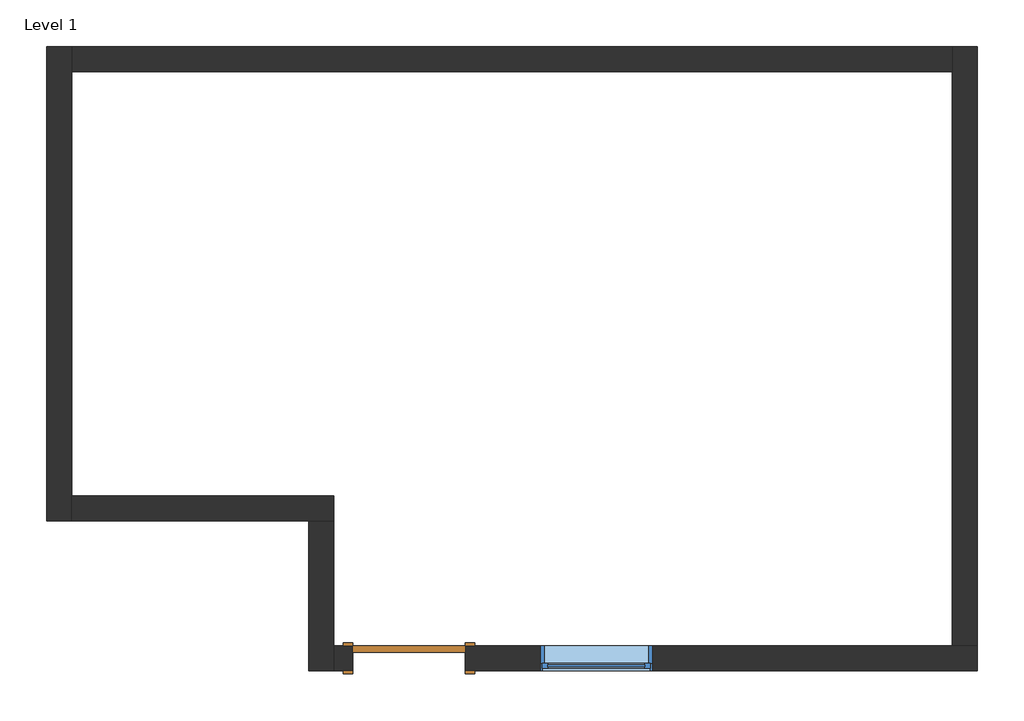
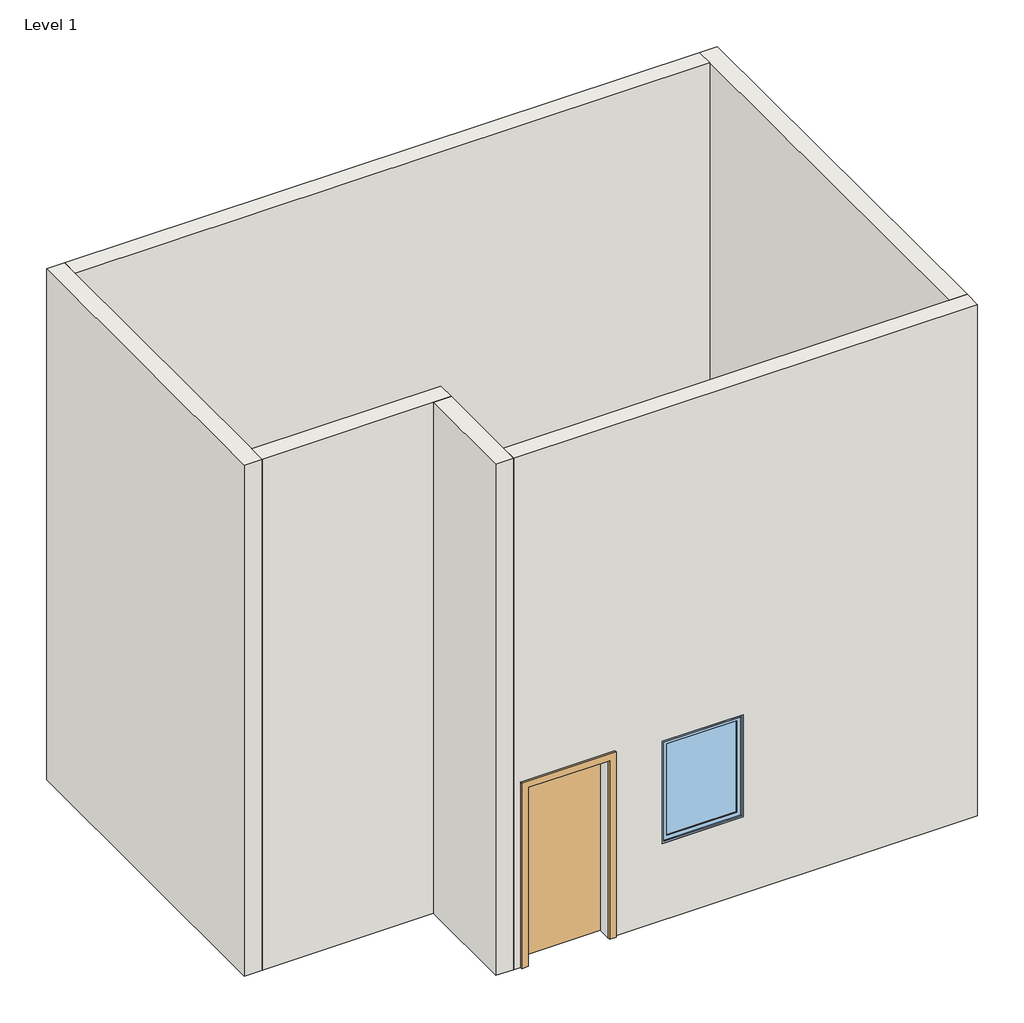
# One storey: 6 walls, 1 door, 1 window.
"""IFC4 building model written with IfcOpenShell, lengths in millimetres."""

import ifcopenshell
import ifcopenshell.guid

model = None  # the IFC model being written
_history = None  # IfcOwnerHistory: only IFC2X3 demands one
_inside = {}  # id of a spatial element -> (the spatial element, [elements in it])
_under = {}  # id of a project, library or spatial element -> (it, [spatial elements below it])
_declared = {}  # id of a project -> (the project, [libraries it declares])
_typed = {}  # id of a type object -> (the type object, [elements of that type])
_made_of = {}  # id of a material, layer set ... -> (it, [elements and type objects made of it])


def new_model(schema):
    """Start an empty IFC model of exactly this schema.

    Asked for "IFC4X3", IfcOpenShell would pick the latest addendum, in which some entities
    have other attributes; the version numbers below select the first issue.
    IFC2X3 requires an IfcOwnerHistory on every rooted entity: one is made here for all.
    """
    global model, _history
    if schema == "IFC4X3":
        model = ifcopenshell.file(schema_version=(4, 3, 0, 0))
    else:
        model = ifcopenshell.file(schema=schema)
    _inside.clear()
    _under.clear()
    _declared.clear()
    _typed.clear()
    _made_of.clear()
    _history = None
    if model.schema == "IFC2X3":
        org = make("IfcOrganization", Name="unknown")
        user = make(
            "IfcPersonAndOrganization",
            ThePerson=make("IfcPerson", FamilyName="unknown"),
            TheOrganization=org,
        )
        app = make(
            "IfcApplication",
            ApplicationDeveloper=org,
            Version="unknown",
            ApplicationFullName="unknown",
            ApplicationIdentifier="unknown",
        )
        _history = make(
            "IfcOwnerHistory",
            OwningUser=user,
            OwningApplication=app,
            ChangeAction="ADDED",
            CreationDate=0,
        )
    return model


def make(cls, **values):
    """One entity of the class cls with the attributes given. An attribute that is None is left unset."""
    return model.create_entity(
        cls, **{name: value for name, value in values.items() if value is not None}
    )


def rooted(cls, **values):
    """An entity with a GlobalId (a new one), such as an element, a storey or a relation."""
    return make(cls, GlobalId=ifcopenshell.guid.new(), OwnerHistory=_history, **values)


def si_unit(unit_type, name, prefix=None):
    """IfcSIUnit, for example si_unit("LENGTHUNIT", "METRE", prefix="MILLI")."""
    return make("IfcSIUnit", UnitType=unit_type, Prefix=prefix, Name=name)


def assignment(units):
    """IfcUnitAssignment: the units of a project."""
    return None if units is None else make("IfcUnitAssignment", Units=units)


def point(xyz):
    """IfcCartesianPoint."""
    return None if xyz is None else make("IfcCartesianPoint", Coordinates=xyz)


def direction(xyz):
    """IfcDirection."""
    return None if xyz is None else make("IfcDirection", DirectionRatios=xyz)


def frame(location, z_axis=None, x_axis=None):
    """IfcAxis2Placement3D, a coordinate frame: its origin and axes. An axis left out is left unset."""
    return make(
        "IfcAxis2Placement3D",
        Location=point(location),
        Axis=direction(z_axis),
        RefDirection=direction(x_axis),
    )


def origin():
    """The frame at (0, 0, 0) with its axes left unset."""
    return frame((0.0, 0.0, 0.0))


def origin_with_axes():
    """The frame at (0, 0, 0) with the z axis (0, 0, 1) and the x axis (1, 0, 0) written out."""
    return frame((0.0, 0.0, 0.0), z_axis=(0.0, 0.0, 1.0), x_axis=(1.0, 0.0, 0.0))


def place(relative_to, where):
    """IfcLocalPlacement: puts the frame where relative to a parent placement (None: the world)."""
    return make(
        "IfcLocalPlacement", PlacementRelTo=relative_to, RelativePlacement=where
    )


def context(
    kind, dimensions, precision=None, world=None, true_north=None, identifier=None
):
    """IfcGeometricRepresentationContext, for example the 3D "Model" context."""
    return make(
        "IfcGeometricRepresentationContext",
        ContextIdentifier=identifier,
        ContextType=kind,
        CoordinateSpaceDimension=dimensions,
        Precision=precision,
        WorldCoordinateSystem=world,
        TrueNorth=true_north,
    )


def project(units=None, contexts=None):
    """IfcProject with its units and contexts."""
    return rooted(
        "IfcProject",
        Name="project",
        RepresentationContexts=contexts,
        UnitsInContext=assignment(units),
    )


def spatial(cls, under=None, at=None, **own):
    """A site, building, storey or space (cls), placed at a placement, below another one or the project."""
    s = rooted(cls, ObjectPlacement=at, **own)
    if under is not None:
        _under.setdefault(under.id(), (under, []))[1].append(s)
    return s


def polyline(points):
    """IfcPolyline through the points."""
    return make("IfcPolyline", Points=[point(p) for p in points])


def outline(outer, holes=None, kind="AREA"):
    """IfcArbitraryClosedProfileDef: a profile drawn as a closed curve; with holes, ...WithVoids."""
    if holes is None:
        return make("IfcArbitraryClosedProfileDef", ProfileType=kind, OuterCurve=outer)
    return make(
        "IfcArbitraryProfileDefWithVoids",
        ProfileType=kind,
        OuterCurve=outer,
        InnerCurves=holes,
    )


def extrude(swept, where, along, depth):
    """IfcExtrudedAreaSolid: the profile swept, set in the frame where, extruded along a direction by depth."""
    return make(
        "IfcExtrudedAreaSolid",
        SweptArea=swept,
        Position=where,
        ExtrudedDirection=direction(along),
        Depth=depth,
    )


def faces_of(points, faces, orient=None, outer=None):
    """IfcFace entities. A face is a list of loops; a loop is a list of indices into points, from 0.

    orient and outer hold one flag for each loop. By default every Orientation is true, the
    first loop of a face is its IfcFaceOuterBound and the others are IfcFaceBound.
    """
    made = []
    for i, loops in enumerate(faces):
        bounds = []
        for j, loop in enumerate(loops):
            is_outer = j == 0 if outer is None else outer[i][j]
            bounds.append(
                make(
                    "IfcFaceOuterBound" if is_outer else "IfcFaceBound",
                    Bound=make("IfcPolyLoop", Polygon=[points[k] for k in loop]),
                    Orientation=True if orient is None else orient[i][j],
                )
            )
        made.append(make("IfcFace", Bounds=bounds))
    return made


def faceted_brep(points, faces, orient=None, outer=None, voids=None):
    """IfcFacetedBrep: a solid bounded by flat faces; with voids (closed shells), ...WithVoids."""
    shared = [point(p) for p in points]
    hull = make("IfcClosedShell", CfsFaces=faces_of(shared, faces, orient, outer))
    if voids is None:
        return make("IfcFacetedBrep", Outer=hull)
    return make(
        "IfcFacetedBrepWithVoids",
        Outer=hull,
        Voids=[
            make(cls, CfsFaces=faces_of(shared, fs, o, b)) for cls, fs, o, b in voids
        ],
    )


def shape(context_of_items, identifier, shape_type, items):
    """IfcShapeRepresentation: the items that make up one representation, for example the "Body"."""
    return make(
        "IfcShapeRepresentation",
        ContextOfItems=context_of_items,
        RepresentationIdentifier=identifier,
        RepresentationType=shape_type,
        Items=items,
    )


def source(mapping_origin, context_of_items, identifier, shape_type, items):
    """IfcRepresentationMap: a shape defined once, which mapped items show again and again."""
    return make(
        "IfcRepresentationMap",
        MappingOrigin=mapping_origin,
        MappedRepresentation=shape(context_of_items, identifier, shape_type, items),
    )


def transform(
    local_origin,
    x_axis=None,
    y_axis=None,
    z_axis=None,
    scale=None,
    scale2=None,
    scale3=None,
    uniform=True,
):
    """IfcCartesianTransformationOperator3D, or its non-uniform kind. x_axis, y_axis, z_axis: its Axis1, 2, 3."""
    if uniform:
        return make(
            "IfcCartesianTransformationOperator3D",
            Axis1=direction(x_axis),
            Axis2=direction(y_axis),
            LocalOrigin=point(local_origin),
            Scale=scale,
            Axis3=direction(z_axis),
        )
    return make(
        "IfcCartesianTransformationOperator3DnonUniform",
        Axis1=direction(x_axis),
        Axis2=direction(y_axis),
        LocalOrigin=point(local_origin),
        Scale=scale,
        Axis3=direction(z_axis),
        Scale2=scale2,
        Scale3=scale3,
    )


def mapped(mapping_source, mapping_target):
    """IfcMappedItem: shows the shape of a source again, moved by a transform."""
    return make(
        "IfcMappedItem", MappingSource=mapping_source, MappingTarget=mapping_target
    )


def made_of(thing, what):
    """Note that an element or type object is made of a material, layer set ...; save() writes the relation."""
    if what is not None:
        _made_of.setdefault(what.id(), (what, []))[1].append(thing)
    return thing


def element(
    cls,
    number,
    at=None,
    inside=None,
    cuts=None,
    type_object=None,
    material=None,
    context=None,
    identifier="Body",
    shape_type=None,
    held_by="IfcProductDefinitionShape",
    body=None,
    shapes=None,
    **own,
):
    """One element of the class cls, such as IfcWall. Its Tag is "e" and its number.

    at: its placement. inside: the storey or other place that contains it. cuts: it is an
    opening in that element (IfcRelVoidsElement). A single representation is given by context,
    identifier, shape_type and body (its items); several are given by shapes. held_by: the class
    of the entity that holds the representations. save() writes the other relations.
    """
    e = rooted(cls, Tag="e%d" % number, ObjectPlacement=at, **own)
    if body is not None:
        shapes = [shape(context, identifier, shape_type, body)]
    if shapes is not None:
        e.Representation = make(held_by, Representations=shapes)
    if inside is not None:
        _inside.setdefault(inside.id(), (inside, []))[1].append(e)
    if cuts is not None:
        rooted(
            "IfcRelVoidsElement", RelatingBuildingElement=cuts, RelatedOpeningElement=e
        )
    if type_object is not None:
        _typed.setdefault(type_object.id(), (type_object, []))[1].append(e)
    return made_of(e, material)


def aggregate(whole, parts):
    """IfcRelAggregates: a whole, such as a stair, and the parts it consists of."""
    return rooted("IfcRelAggregates", RelatingObject=whole, RelatedObjects=parts)


def save(model, path):
    """Write the relations noted so far, then the file.

    IfcRelAggregates (storeys below a building ...), IfcRelContainedInSpatialStructure (elements
    in a storey), IfcRelDefinesByType, IfcRelAssociatesMaterial and IfcRelDeclares: one each for
    every whole, place, type object, material and project.
    """
    for whole, parts in _under.values():
        aggregate(whole, parts)
    for where, things in _inside.values():
        rooted(
            "IfcRelContainedInSpatialStructure",
            RelatedElements=things,
            RelatingStructure=where,
        )
    for kind, things in _typed.values():
        rooted("IfcRelDefinesByType", RelatedObjects=things, RelatingType=kind)
    for what, things in _made_of.values():
        rooted("IfcRelAssociatesMaterial", RelatedObjects=things, RelatingMaterial=what)
    for by, libraries in _declared.values():
        rooted("IfcRelDeclares", RelatingContext=by, RelatedDefinitions=libraries)
    model.write(path)


def door_719f80de(model_context):
    return source(origin(), model_context, "Body", "SweptSolid", [
        extrude(outline(polyline([(2209.8, -533.4), (0.0, -533.4), (0.0, -457.2), (2133.6, -457.2), (2133.6, 457.2), (0.0, 457.2), (0.0, 533.4), (2209.8, 533.4), (2209.8, -533.4)])), frame((0.0, -127.0, 0.0), z_axis=(0.0, 1.0, 0.0), x_axis=(0.0, 0.0, 1.0)), (0.0, 0.0, 1.0), 25.4),
        extrude(outline(polyline([(2209.8, 533.4), (2209.8, -533.4), (0.0, -533.4), (0.0, -457.2), (2133.6, -457.2), (2133.6, 457.2), (0.0, 457.2), (0.0, 533.4), (2209.8, 533.4)])), frame((0.0, 101.6, 0.0), z_axis=(0.0, 1.0, 0.0), x_axis=(0.0, 0.0, 1.0)), (0.0, 0.0, 1.0), 25.4),
        extrude(outline(polyline([(457.2, -50.8), (457.2, -101.6), (-457.2, -101.6), (-457.2, -50.8), (457.2, -50.8)])), origin_with_axes(), (0.0, 0.0, 1.0), 2133.6),
    ])


def window_e2841890(model_context):
    return source(origin(), model_context, "Body", "SweptSolid", [
        extrude(outline(polyline([(355.6, 53.975), (-431.8, 53.975), (-431.8, 66.675), (355.6, 66.675), (355.6, 53.975)])), frame((0.0, 0.0, 977.9), z_axis=(0.0, 0.0, 1.0), x_axis=(1.0, 0.0, 0.0)), (0.0, 0.0, 1.0), 1092.2),
        extrude(outline(polyline([(2114.55, -476.25), (933.45, -476.25), (933.45, 400.05), (2114.55, 400.05), (2114.55, -476.25)]), holes=[polyline([(2070.1, -431.8), (2070.1, 355.6), (977.9, 355.6), (977.9, -431.8), (2070.1, -431.8)])]), frame((0.0, 38.1, 0.0), z_axis=(0.0, 1.0, 0.0), x_axis=(0.0, 0.0, 1.0)), (0.0, 0.0, 1.0), 44.45),
        extrude(outline(polyline([(2133.6, -495.3), (914.4, -495.3), (914.4, 419.1), (2133.6, 419.1), (2133.6, -495.3)]), holes=[polyline([(2101.85, -463.55), (2101.85, 387.35), (946.15, 387.35), (946.15, -463.55), (2101.85, -463.55)])]), frame((0.0, -101.6, 0.0), z_axis=(0.0, 1.0, 0.0), x_axis=(0.0, 0.0, 1.0)), (0.0, 0.0, 1.0), 139.7),
        extrude(outline(polyline([(2133.6, 419.1), (2133.6, -495.3), (914.4, -495.3), (914.4, 419.1), (2133.6, 419.1)]), holes=[polyline([(2114.55, 400.05), (933.45, 400.05), (933.45, -476.25), (2114.55, -476.25), (2114.55, 400.05)])]), frame((0.0, 38.1, 0.0), z_axis=(0.0, 1.0, 0.0), x_axis=(0.0, 0.0, 1.0)), (0.0, 0.0, 1.0), 63.5),
    ])


model = new_model("IFC4")

# Units and contexts
model_context = context("Model", 3, world=origin())
ifc_project = project(units=[si_unit("LENGTHUNIT", "METRE", prefix="MILLI")], contexts=[model_context])

# Site, building, storey
site = spatial("IfcSite", under=ifc_project)
building = spatial("IfcBuilding", under=site)
storey = spatial("IfcBuildingStorey", under=building, Name="Level 1", Elevation=0.0)

# Door
placement = place(None, origin())
door_shape = door_719f80de(model_context)
element("IfcDoor", 1, ObjectType="Single-Flush : 36\" x 84\"", at=placement, inside=storey, context=model_context, shape_type="MappedRepresentation", body=[
    mapped(door_shape, transform((-2464.9823321, -1746.8944728, 0.0), x_axis=(-1.0, 0.0, 0.0), y_axis=(0.0, -1.0, 0.0), z_axis=(0.0, 0.0, 1.0))),
])

# Walls
element("IfcWall", 2, ObjectType="Generic - 8\"", at=placement, inside=storey, context=model_context, shape_type="Brep", body=[
    faceted_brep([(-5411.3823321, 3231.5055272, 0.0), (-5411.3823321, -629.2944728, 0.0), (-5411.3823321, -629.2944728, 6096.0), (-5411.3823321, 3231.5055272, 6096.0), (-5208.1823321, 3231.5055272, 0.0), (-5208.1823321, 3231.5055272, 6096.0), (-5208.1823321, 3028.3055272, 6096.0), (-5208.1823321, -426.0944728, 6096.0), (-5208.1823321, -629.2944728, 6096.0), (-5208.1823321, -629.2944728, 0.0), (-5208.1823321, -426.0944728, 0.0), (-5208.1823321, 3028.3055272, 0.0)], [[[0, 1, 2, 3]], [[4, 5, 6, 7, 8, 9, 10, 11]], [[1, 0, 4, 11, 10, 9]], [[3, 2, 8, 7, 6, 5]], [[2, 1, 9, 8]], [[0, 3, 5, 4]]]),
])
element("IfcWall", 3, ObjectType="Generic - 8\"", at=placement, inside=storey, context=model_context, shape_type="Brep", body=[
    faceted_brep([(-5208.1823321, -629.2944728, 0.0), (-3277.7823321, -629.2944728, 0.0), (-3074.5823321, -629.2944728, 0.0), (-3074.5823321, -629.2944728, 6096.0), (-3277.7823321, -629.2944728, 6096.0), (-5208.1823321, -629.2944728, 6096.0), (-5208.1823321, -426.0944728, 0.0), (-5208.1823321, -426.0944728, 6096.0), (-3074.5823321, -426.0944728, 6096.0), (-3074.5823321, -426.0944728, 0.0)], [[[0, 1, 2, 3, 4, 5]], [[6, 7, 8, 9]], [[2, 1, 0, 6, 9]], [[5, 4, 3, 8, 7]], [[0, 5, 7, 6]], [[3, 2, 9, 8]]]),
])
element("IfcWall", 4, ObjectType="Generic - 8\"", at=placement, inside=storey, context=model_context, shape_type="Brep", body=[
    faceted_brep([(-3277.7823321, -629.2944728, 0.0), (-3277.7823321, -1848.4944728, 0.0), (-3277.7823321, -1848.4944728, 6096.0), (-3277.7823321, -629.2944728, 6096.0), (-3074.5823321, -629.2944728, 0.0), (-3074.5823321, -629.2944728, 6096.0), (-3074.5823321, -1645.2944728, 6096.0), (-3074.5823321, -1848.4944728, 6096.0), (-3074.5823321, -1848.4944728, 0.0), (-3074.5823321, -1645.2944728, 0.0)], [[[0, 1, 2, 3]], [[4, 5, 6, 7, 8, 9]], [[1, 0, 4, 9, 8]], [[3, 2, 7, 6, 5]], [[0, 3, 5, 4]], [[2, 1, 8, 7]]]),
])
element("IfcWall", 5, ObjectType="Generic - 8\"", at=placement, inside=storey, context=model_context, shape_type="Brep", body=[
    faceted_brep([(-3074.5823321, -1848.4944728, 0.0), (-2922.1823321, -1848.4944728, 0.0), (-2922.1823321, -1848.4944728, 2133.6), (-2007.7823321, -1848.4944728, 2133.6), (-2007.7823321, -1848.4944728, 0.0), (2157.8176679, -1848.4944728, 0.0), (2157.8176679, -1848.4944728, 6096.0), (-3074.5823321, -1848.4944728, 6096.0), (-1398.1823321, -1848.4944728, 2133.6), (-483.7823321, -1848.4944728, 2133.6), (-483.7823321, -1848.4944728, 914.4), (-1398.1823321, -1848.4944728, 914.4), (-2922.1823321, -1645.2944728, 2133.6), (-2922.1823321, -1645.2944728, 0.0), (-3074.5823321, -1645.2944728, 0.0), (-3074.5823321, -1645.2944728, 6096.0), (1954.6176679, -1645.2944728, 6096.0), (2157.8176679, -1645.2944728, 6096.0), (2157.8176679, -1645.2944728, 0.0), (1954.6176679, -1645.2944728, 0.0), (-2007.7823321, -1645.2944728, 0.0), (-2007.7823321, -1645.2944728, 2133.6), (-1398.1823321, -1645.2944728, 2133.6), (-1398.1823321, -1645.2944728, 914.4), (-483.7823321, -1645.2944728, 914.4), (-483.7823321, -1645.2944728, 2133.6)], [[[0, 1, 2, 3, 4, 5, 6, 7], [8, 9, 10, 11]], [[12, 13, 14, 15, 16, 17, 18, 19, 20, 21], [22, 23, 24, 25]], [[14, 13, 1, 0]], [[20, 19, 18, 5, 4]], [[7, 6, 17, 16, 15]], [[0, 7, 15, 14]], [[6, 5, 18, 17]], [[2, 1, 13, 12]], [[3, 2, 12, 21]], [[4, 3, 21, 20]], [[23, 22, 8, 11]], [[24, 23, 11, 10]], [[25, 24, 10, 9]], [[22, 25, 9, 8]]]),
])
element("IfcWall", 6, ObjectType="Generic - 8\"", at=placement, inside=storey, context=model_context, shape_type="Brep", body=[
    faceted_brep([(2157.8176679, -1645.2944728, 0.0), (2157.8176679, 3231.5055272, 0.0), (2157.8176679, 3231.5055272, 6096.0), (2157.8176679, -1645.2944728, 6096.0), (1954.6176679, -1645.2944728, 0.0), (1954.6176679, -1645.2944728, 6096.0), (1954.6176679, 3028.3055272, 6096.0), (1954.6176679, 3231.5055272, 6096.0), (1954.6176679, 3231.5055272, 0.0), (1954.6176679, 3028.3055272, 0.0)], [[[0, 1, 2, 3]], [[4, 5, 6, 7, 8, 9]], [[1, 0, 4, 9, 8]], [[3, 2, 7, 6, 5]], [[0, 3, 5, 4]], [[2, 1, 8, 7]]]),
])
element("IfcWall", 7, ObjectType="Generic - 8\"", at=placement, inside=storey, context=model_context, shape_type="SweptSolid", body=[
    extrude(outline(polyline([(-5208.1823321, 3231.5055272), (1954.6176679, 3231.5055272), (1954.6176679, 3028.3055272), (-5208.1823321, 3028.3055272), (-5208.1823321, 3231.5055272)])), origin_with_axes(), (0.0, 0.0, 1.0), 6096.0),
])

# Window
window_shape = window_e2841890(model_context)
element("IfcWindow", 8, ObjectType="Fixed : 36\" x 48\"", at=placement, inside=storey, context=model_context, shape_type="MappedRepresentation", body=[
    mapped(window_shape, transform((-979.0823321, -1746.8944728, 0.0), x_axis=(-1.0, 0.0, 0.0), y_axis=(0.0, -1.0, 0.0), z_axis=(0.0, 0.0, 1.0))),
])

save(model, "model.ifc")
